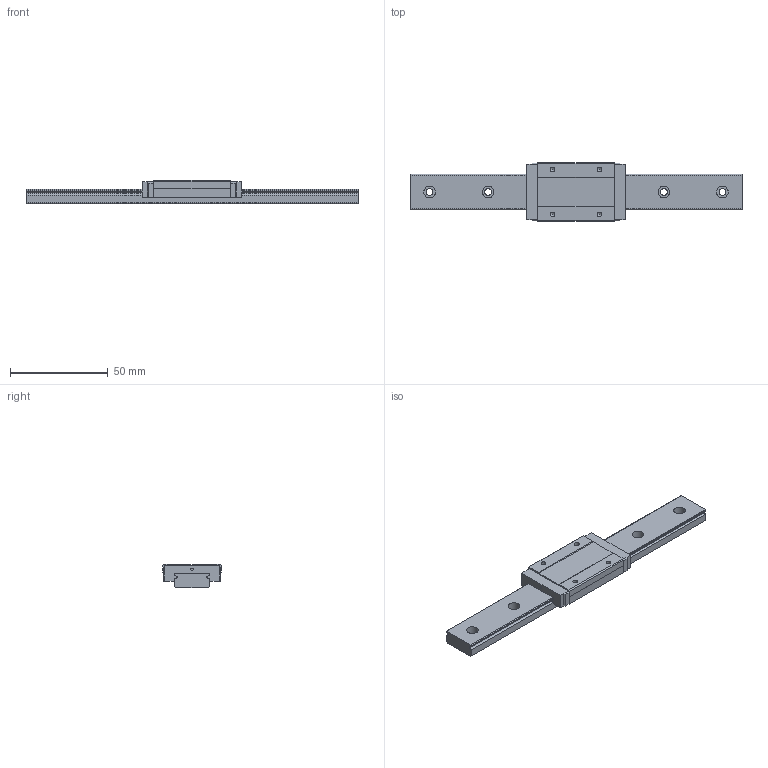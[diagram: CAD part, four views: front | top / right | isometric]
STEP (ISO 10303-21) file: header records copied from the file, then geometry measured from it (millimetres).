
FILE_DESCRIPTION((''),'2;1');
FILE_NAME('C:\Documents and Settings\土屋\My Documents\土屋移動用フォルダ\製品 (図面)\カタログ用3D\リニアガイド\EGM-WL\EGM9WL.stp','2015-02-21T13:18:25',('y'),(''),'Autodesk Inventor 11','Autodesk Inventor 11','');
FILE_SCHEMA(('AUTOMOTIVE_DESIGN { 1 0 10303 214 1 1 1 1 }'));
Length unit declared in the file: millimetre
Products named in the file (3): EGM9WL; EGM9WLレール; EGM9WLベアリング
Assembly tree (2 placements, depth 2):
  EGM9WL
    EGM9WLレール
    EGM9WLベアリング
Bounding box: 170 x 30 x 12 mm (x, y, z)
Volume: 29755 mm3; surface area: 14732.4 mm2
Topology: 2 solids, 2 shells, 102 faces, 266 edges, 176 vertices
Faces by surface type: plane 54, bspline 28, cylinder 20
Full cylindrical faces by diameter (mm): 1.3 x1
Entity records: 3323 total; most frequent: CARTESIAN_POINT 889, ORIENTED_EDGE 472, DIRECTION 468, EDGE_CURVE 236, VERTEX_POINT 168, VECTOR 162, LINE 162, AXIS2_PLACEMENT_3D 153
